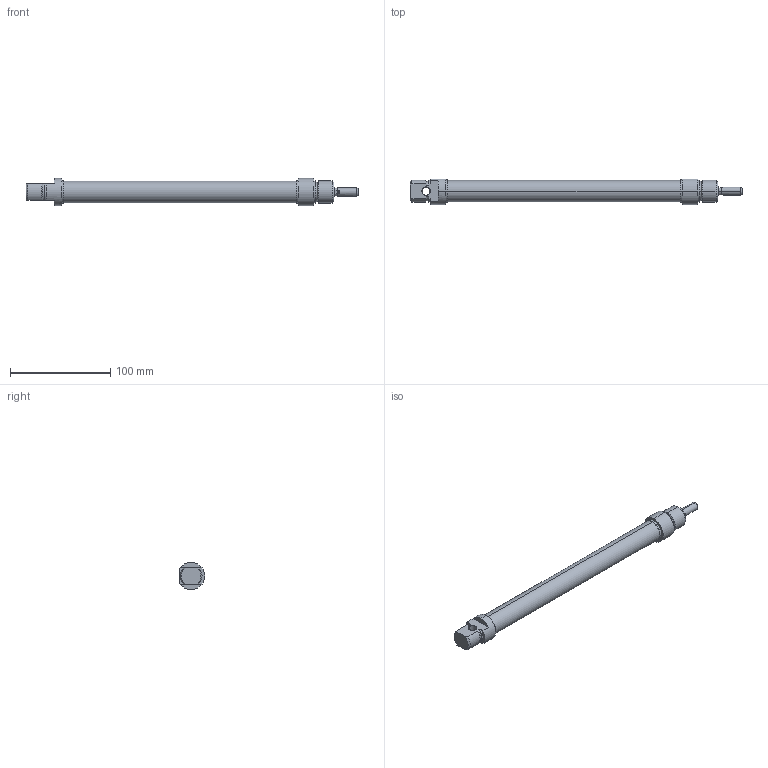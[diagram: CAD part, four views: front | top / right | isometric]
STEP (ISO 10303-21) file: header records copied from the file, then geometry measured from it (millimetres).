
FILE_DESCRIPTION (( 'STEP AP214' ), '1' );
FILE_NAME ('23_00603.STEP', '2017-01-03T15:54:34', ( '' ), ( '' ), 'SwSTEP 2.0', 'SolidWorks 2016', '' );
FILE_SCHEMA (( 'AUTOMOTIVE_DESIGN' ));
Length unit declared in the file: millimetre
Products named in the file (1): 23_00603
Bounding box: 331 x 25.2 x 27 mm (x, y, z)
Volume: 112558.4 mm3; surface area: 25687.1 mm2
Topology: 4 solids, 4 shells, 108 faces, 242 edges, 151 vertices
Faces by surface type: cylinder 43, plane 35, cone 26, torus 4
Entity records: 3187 total; most frequent: CARTESIAN_POINT 658, DIRECTION 556, ORIENTED_EDGE 480, EDGE_CURVE 240, AXIS2_PLACEMENT_3D 225, VERTEX_POINT 151, EDGE_LOOP 121, CIRCLE 116
